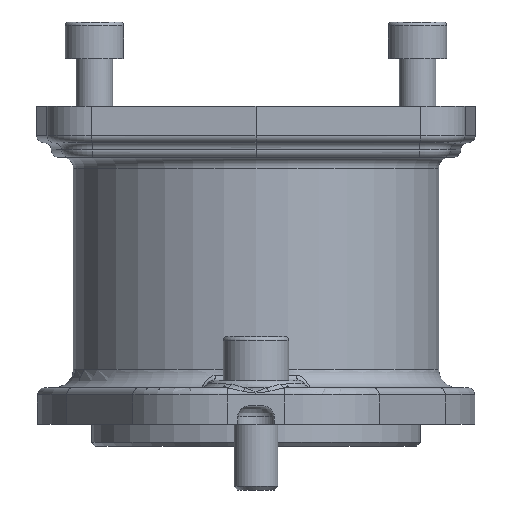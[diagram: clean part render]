
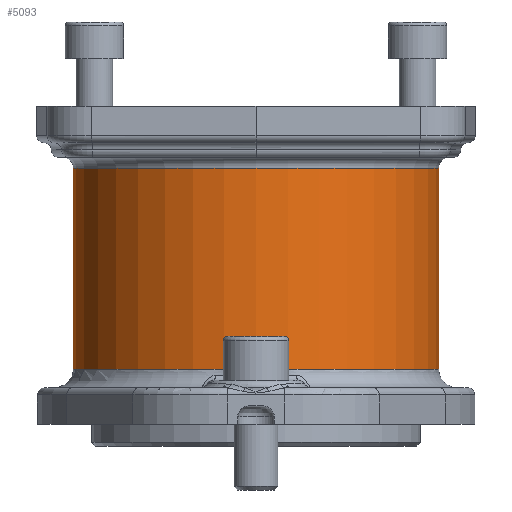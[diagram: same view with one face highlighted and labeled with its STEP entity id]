
A CAD part, front view. The second image highlights one B-rep face of the part: STEP entity #5093.
In plain terms, the highlighted cylindrical face has radius 50 mm (diameter 100 mm), a full revolution.
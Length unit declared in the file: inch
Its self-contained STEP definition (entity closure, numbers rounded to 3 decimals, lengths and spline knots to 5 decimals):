
#122=CYLINDRICAL_SURFACE('',#5649,1.9685);
#507=LINE('',#9242,#813);
#813=VECTOR('',#6989,1.9685);
#1196=FACE_OUTER_BOUND('',#1520,.T.);
#1520=EDGE_LOOP('',(#4208,#4209,#4210,#4211,#4212));
#1789=CIRCLE('',#5590,1.9685);
#1790=CIRCLE('',#5591,1.9685);
#1827=CIRCLE('',#5650,1.9685);
#2243=VERTEX_POINT('',#8827);
#2244=VERTEX_POINT('',#8829);
#2276=VERTEX_POINT('',#9240);
#2875=EDGE_CURVE('',#2243,#2244,#1789,.T.);
#2876=EDGE_CURVE('',#2244,#2243,#1790,.T.);
#2936=EDGE_CURVE('',#2276,#2276,#1827,.T.);
#2937=EDGE_CURVE('',#2276,#2244,#507,.T.);
#4208=ORIENTED_EDGE('',*,*,#2936,.F.);
#4209=ORIENTED_EDGE('',*,*,#2937,.T.);
#4210=ORIENTED_EDGE('',*,*,#2875,.F.);
#4211=ORIENTED_EDGE('',*,*,#2876,.F.);
#4212=ORIENTED_EDGE('',*,*,#2937,.F.);
#5093=ADVANCED_FACE('',(#1196),#122,.T.);
#5590=AXIS2_PLACEMENT_3D('',#8830,#6858,#6859);
#5591=AXIS2_PLACEMENT_3D('',#8831,#6860,#6861);
#5649=AXIS2_PLACEMENT_3D('',#9239,#6985,#6986);
#5650=AXIS2_PLACEMENT_3D('',#9241,#6987,#6988);
#6858=DIRECTION('center_axis',(0.,0.,-1.));
#6859=DIRECTION('ref_axis',(-1.,0.,0.));
#6860=DIRECTION('center_axis',(0.,0.,-1.));
#6861=DIRECTION('ref_axis',(-1.,0.,0.));
#6985=DIRECTION('center_axis',(0.,0.,1.));
#6986=DIRECTION('ref_axis',(-1.,0.,0.));
#6987=DIRECTION('center_axis',(0.,0.,
1.));
#6988=DIRECTION('ref_axis',(-1.,0.,0.));
#6989=DIRECTION('',(0.,0.,-1.));
#8827=CARTESIAN_POINT('',(-1.9685,0.,0.59055));
#8829=CARTESIAN_POINT('',(1.9685,0.,0.59055));
#8830=CARTESIAN_POINT('Origin',(0.,0.,0.59055));
#8831=CARTESIAN_POINT('Origin',(0.,0.,0.59055));
#9239=CARTESIAN_POINT('Origin',(0.,0.,0.));
#9240=CARTESIAN_POINT('',(1.9685,0.,2.75591));
#9241=CARTESIAN_POINT('Origin',(0.,0.,2.75591));
#9242=CARTESIAN_POINT('',(1.9685,0.,0.));
